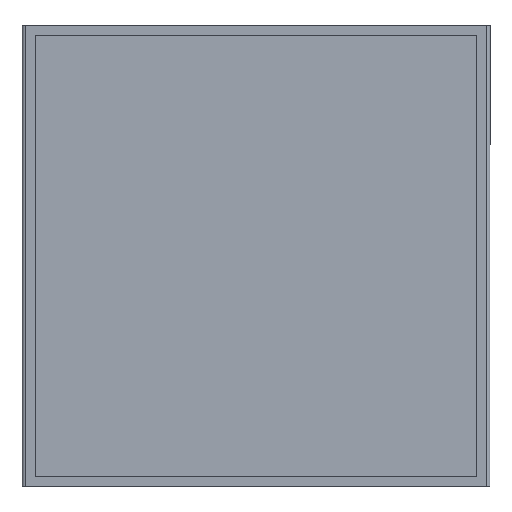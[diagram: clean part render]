
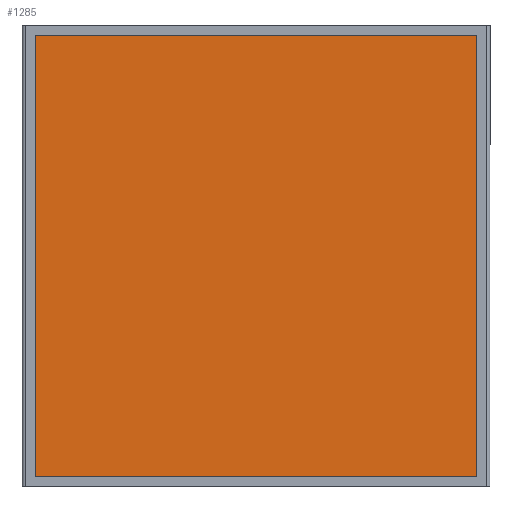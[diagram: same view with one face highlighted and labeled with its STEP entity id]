
A CAD part, front view. The second image highlights one B-rep face of the part: STEP entity #1285.
In plain terms, the highlighted planar face has unit normal (0, -1, 0).
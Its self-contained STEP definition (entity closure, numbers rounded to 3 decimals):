
#284 = DIRECTION ( 'NONE',  ( 0., 0., 1. ) ) ;
#342 = EDGE_CURVE ( 'NONE', #2618, #2617, #4405, .T. ) ;
#793 = LINE ( 'NONE', #1764, #4600 ) ;
#1141 = VERTEX_POINT ( 'NONE', #4910 ) ;
#1285 = ADVANCED_FACE ( 'NONE', ( #6725 ), #7293, .F. ) ;
#1764 = CARTESIAN_POINT ( 'NONE',  ( -16.5, -0.127, 16.5 ) ) ;
#1993 = CARTESIAN_POINT ( 'NONE',  ( -16.5, -0.127, -16.5 ) ) ;
#2066 = LINE ( 'NONE', #4339, #6846 ) ;
#2081 = EDGE_CURVE ( 'NONE', #2617, #1141, #4814, .T. ) ;
#2101 = VECTOR ( 'NONE', #5516, 1000. ) ;
#2260 = CARTESIAN_POINT ( 'NONE',  ( -16.5, -0.127, -16.5 ) ) ;
#2439 = EDGE_CURVE ( 'NONE', #4702, #2618, #2066, .T. ) ;
#2451 = DIRECTION ( 'NONE',  ( 1., 0., 0. ) ) ;
#2568 = VECTOR ( 'NONE', #284, 1000. ) ;
#2617 = VERTEX_POINT ( 'NONE', #1993 ) ;
#2618 = VERTEX_POINT ( 'NONE', #6540 ) ;
#2695 = CARTESIAN_POINT ( 'NONE',  ( -16.5, -0.127, 16.5 ) ) ;
#3106 = ORIENTED_EDGE ( 'NONE', *, *, #2081, .F. ) ;
#3110 = ORIENTED_EDGE ( 'NONE', *, *, #2439, .F. ) ;
#3299 = DIRECTION ( 'NONE',  ( 0., 1., 0. ) ) ;
#3383 = EDGE_CURVE ( 'NONE', #1141, #4702, #793, .T. ) ;
#3725 = ORIENTED_EDGE ( 'NONE', *, *, #342, .F. ) ;
#4339 = CARTESIAN_POINT ( 'NONE',  ( 16.5, -0.127, -16.5 ) ) ;
#4405 = LINE ( 'NONE', #2260, #2101 ) ;
#4562 = CARTESIAN_POINT ( 'NONE',  ( 16.5, -0.127, 16.5 ) ) ;
#4600 = VECTOR ( 'NONE', #2451, 1000. ) ;
#4702 = VERTEX_POINT ( 'NONE', #4562 ) ;
#4814 = LINE ( 'NONE', #5433, #2568 ) ;
#4910 = CARTESIAN_POINT ( 'NONE',  ( -16.5, -0.127, 16.5 ) ) ;
#5062 = DIRECTION ( 'NONE',  ( 0., 0., 1. ) ) ;
#5280 = AXIS2_PLACEMENT_3D ( 'NONE', #2695, #3299, #5062 ) ;
#5417 = EDGE_LOOP ( 'NONE', ( #3106, #3725, #3110, #6763 ) ) ;
#5433 = CARTESIAN_POINT ( 'NONE',  ( -16.5, -0.127, -16.5 ) ) ;
#5516 = DIRECTION ( 'NONE',  ( -1., 0., 0. ) ) ;
#6053 = DIRECTION ( 'NONE',  ( 0., 0., -1. ) ) ;
#6540 = CARTESIAN_POINT ( 'NONE',  ( 16.5, -0.127, -16.5 ) ) ;
#6725 = FACE_OUTER_BOUND ( 'NONE', #5417, .T. ) ;
#6763 = ORIENTED_EDGE ( 'NONE', *, *, #3383, .F. ) ;
#6846 = VECTOR ( 'NONE', #6053, 1000. ) ;
#7293 = PLANE ( 'NONE',  #5280 ) ;
